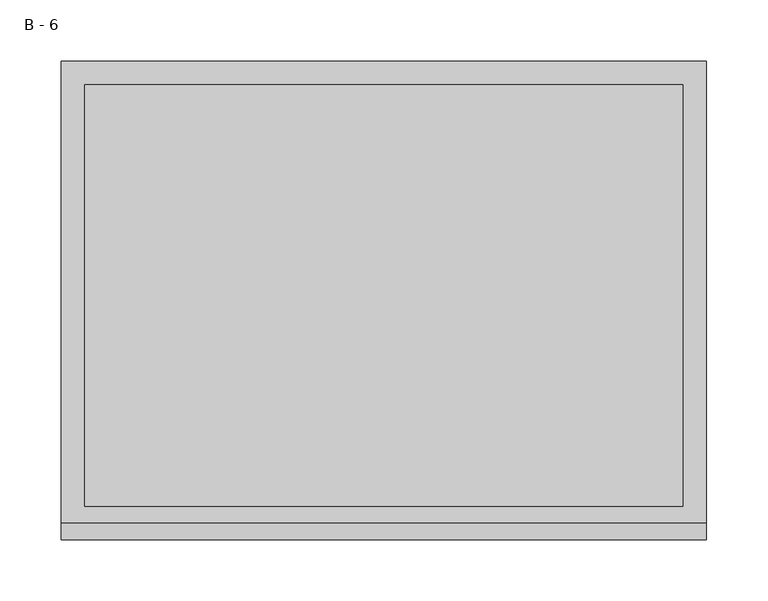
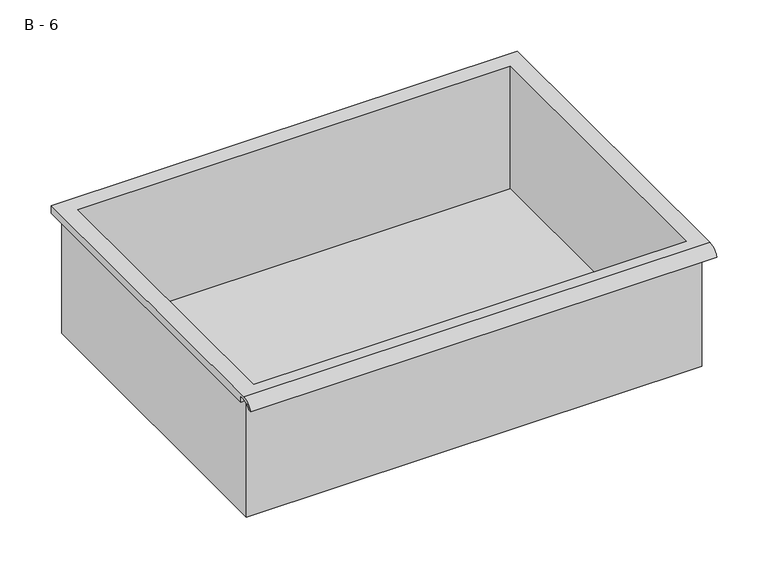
"""IFC4 building model written with IfcOpenShell, lengths in millimetres: furniture geometry, HermanMiller_CoStruc_CO207_Drawer : B - 6."""

from ifc_helpers import new_model, si_unit, frame, origin, place, context, project, spatial, polyline, circle_curve, source, transform, mapped, element, save
from ifc_brep_helpers import plane_surface, cylinder_surface, revolved_surface, advanced_brep


def b_6_79354f33(model_context):
    return source(origin(), model_context, "Body", "AdvancedBrep", [
        advanced_brep(
        [(-257.1076517, -176.2125, 650.875), (257.2423483, -176.2125, 650.875), (257.2423483, -176.2125, 790.575), (263.5923483, -176.2125, 790.575), (263.5923483, -176.2125, 796.8821341), (-263.4576517, -176.2125, 796.8821341), (-263.4576517, -176.2125, 790.575), (-257.1076517, -176.2125, 790.575), (257.2423483, 185.7375, 650.875), (-257.1076517, 185.7375, 650.875), (-257.1076517, 185.7375, 790.575), (257.2423483, 185.7375, 790.575), (263.5923483, -181.6070544, 800.1), (263.5923483, 195.2625, 800.1), (-263.4576517, 195.2625, 800.1), (-263.4576517, -181.6070544, 800.1), (244.5423483, -168.275, 800.1), (-244.4076517, -168.275, 800.1), (-244.4076517, 176.2125, 800.1), (244.5423483, 176.2125, 800.1), (263.5923483, -195.2625, 790.575), (263.5923483, -191.8280601, 790.575), (263.5923483, -180.4714815, 796.8821341), (263.5923483, 195.2625, 790.575), (-263.4576517, 195.2625, 790.575), (-263.4576517, -180.4714815, 796.8821341), (-263.4576517, -191.8280601, 790.575), (-263.4576517, -195.2625, 790.575), (-244.4076517, -168.275, 653.9011719), (244.5423483, -168.275, 653.9011719), (244.5423483, 176.2125, 653.9011719), (-244.4076517, 176.2125, 653.9011719)],
        [
            (0, 1),
            (1, 2),
            (2, 3),
            (3, 4),
            (4, 5),
            (5, 6),
            (6, 7),
            (7, 0),
            (8, 9),
            (9, 10),
            (10, 11),
            (11, 8),
            (0, 9),
            (8, 1),
            (11, 2),
            (12, 13),
            (13, 14),
            (14, 15),
            (15, 12),
            (16, 17),
            (17, 18),
            (18, 19),
            (19, 16),
            (7, 10),
            (12, 20, circle_curve(frame((263.5923483, -181.6070544, 785.5489859), z_axis=(1.0, 0.0, 0.0), x_axis=(0.0, 1.0, 0.0)), 14.5510141)),
            (20, 21),
            (21, 22, circle_curve(frame((263.5923483, -181.6070544, 785.5489859), z_axis=(-1.0, 0.0, 0.0), x_axis=(0.0, 1.0, 0.0)), 11.3898979)),
            (22, 4),
            (3, 23),
            (23, 13),
            (14, 24),
            (24, 6),
            (5, 25),
            (25, 26, circle_curve(frame((-263.4576517, -181.6070544, 785.5489859), z_axis=(1.0, 0.0, 0.0), x_axis=(0.0, 1.0, 0.0)), 11.3898979)),
            (26, 27),
            (27, 15, circle_curve(frame((-263.4576517, -181.6070544, 785.5489859), z_axis=(-1.0, 0.0, 0.0), x_axis=(0.0, 1.0, 0.0)), 14.5510141)),
            (27, 20),
            (26, 21),
            (25, 22),
            (24, 23),
            (28, 29),
            (29, 30),
            (30, 31),
            (31, 28),
            (28, 17),
            (16, 29),
            (19, 30),
            (18, 31),
        ],
        [
            plane_surface(frame((257.2423483, -176.2125, 650.875), z_axis=(0.0, -1.0, 0.0), x_axis=(1.0, 0.0, 0.0))),
            plane_surface(frame((257.2423483, 185.7375, 650.875), z_axis=(0.0, 1.0, 0.0), x_axis=(-1.0, 0.0, 0.0))),
            plane_surface(frame((-257.1076517, -176.2125, 650.875), z_axis=(0.0, 0.0, -1.0), x_axis=(0.0, 1.0, 0.0))),
            plane_surface(frame((257.2423483, -176.2125, 650.875), z_axis=(1.0, 0.0, 0.0), x_axis=(0.0, 1.0, 0.0))),
            plane_surface(frame((257.2423483, -176.2125, 800.1), z_axis=(0.0, 0.0, 1.0), x_axis=(0.0, 1.0, 0.0))),
            plane_surface(frame((-257.1076517, -176.2125, 800.1), z_axis=(-1.0, 0.0, 0.0), x_axis=(0.0, 1.0, 0.0))),
            plane_surface(frame((263.5923483, 195.2625, 800.1), z_axis=(1.0, 0.0, 0.0), x_axis=(0.0, -1.0, 0.0))),
            plane_surface(frame((-263.4576517, 195.2625, 800.1), z_axis=(-1.0, 0.0, 0.0), x_axis=(0.0, 1.0, 0.0))),
            cylinder_surface(frame((-263.4576517, -181.6070544, 785.5489859), z_axis=(1.0, 0.0, 0.0), x_axis=(0.0, 1.0, 0.0)), 14.5510141),
            plane_surface(frame((263.5923483, -195.2625, 790.575), z_axis=(0.0, -7.330645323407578e-12, -1.0), x_axis=(-1.0, 0.0, 0.0))),
            revolved_surface(polyline([(-263.4576517, -170.21715650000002, 785.5489859), (263.59234829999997, -170.21715650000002, 785.5489859)]), (-263.4576517, -181.6070544, 785.5489859), (-1.0, 0.0, 0.0)),
            plane_surface(frame((263.5923483, -180.4714815, 796.8821341), z_axis=(0.0, -1.808388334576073e-11, -1.0), x_axis=(-1.0, 0.0, 0.0))),
            plane_surface(frame((263.5923483, -176.2125, 790.575), z_axis=(0.0, 0.0, -1.0), x_axis=(-1.0, 0.0, 0.0))),
            plane_surface(frame((263.5923483, 195.2625, 790.575), z_axis=(0.0, 1.0, 0.0), x_axis=(-1.0, 0.0, 0.0))),
            plane_surface(frame((244.5423483, -168.275, 653.9011719), z_axis=(0.0, 0.0, 1.0), x_axis=(-1.0, 0.0, 0.0))),
            plane_surface(frame((-244.4076517, -168.275, 800.1), z_axis=(0.0, 1.0, 0.0), x_axis=(0.0, 0.0, -1.0))),
            plane_surface(frame((244.5423483, -168.275, 800.1), z_axis=(-1.0, 0.0, 0.0), x_axis=(0.0, 0.0, -1.0))),
            plane_surface(frame((244.5423483, 176.2125, 800.1), z_axis=(0.0, -1.0, 0.0), x_axis=(0.0, 0.0, -1.0))),
            plane_surface(frame((-244.4076517, 176.2125, 800.1), z_axis=(1.0, 0.0, 0.0), x_axis=(0.0, 0.0, -1.0))),
        ],
        [
            (0, [[1, 2, 3, 4, 5, 6, 7, 8]]),
            (1, [[9, 10, 11, 12]]),
            (2, [[-1, 13, -9, 14]]),
            (3, [[-14, -12, 15, -2]]),
            (4, [[16, 17, 18, 19], [20, 21, 22, 23]]),
            (5, [[-13, -8, 24, -10]]),
            (6, [[-16, 25, 26, 27, 28, -4, 29, 30]]),
            (7, [[31, 32, -6, 33, 34, 35, 36, -18]]),
            (8, [[-25, -19, -36, 37]]),
            (9, [[-26, -37, -35, 38]]),
            (10, [[-27, -38, -34, 39]]),
            (11, [[-28, -39, -33, -5]]),
            (12, [[-29, -3, -15, -11, -24, -7, -32, 40]]),
            (13, [[-30, -40, -31, -17]]),
            (14, [[41, 42, 43, 44]]),
            (15, [[-41, 45, -20, 46]]),
            (16, [[-42, -46, -23, 47]]),
            (17, [[-43, -47, -22, 48]]),
            (18, [[-44, -48, -21, -45]]),
        ],
    ),
    ])


if __name__ == "__main__":
    model = new_model("IFC4")
    model_context = context("Model", 3, world=origin())
    ifc_project = project(units=[si_unit("LENGTHUNIT", "METRE", prefix="MILLI")], contexts=[model_context])
    site = spatial("IfcSite", under=ifc_project)
    building = spatial("IfcBuilding", under=site)
    placement = place(None, origin())
    b_6_shape = b_6_79354f33(model_context)
    element("IfcFurniture", 1, ObjectType="HermanMiller_CoStruc_CO207_Drawer : B - 6", at=placement, inside=building, context=model_context, shape_type="MappedRepresentation", body=[
        mapped(b_6_shape, transform((0.0, 0.0, 0.0), x_axis=(1.0, 0.0, 0.0), y_axis=(0.0, 1.0, 0.0), z_axis=(0.0, 0.0, 1.0))),
    ])
    save(model, "model.ifc")
